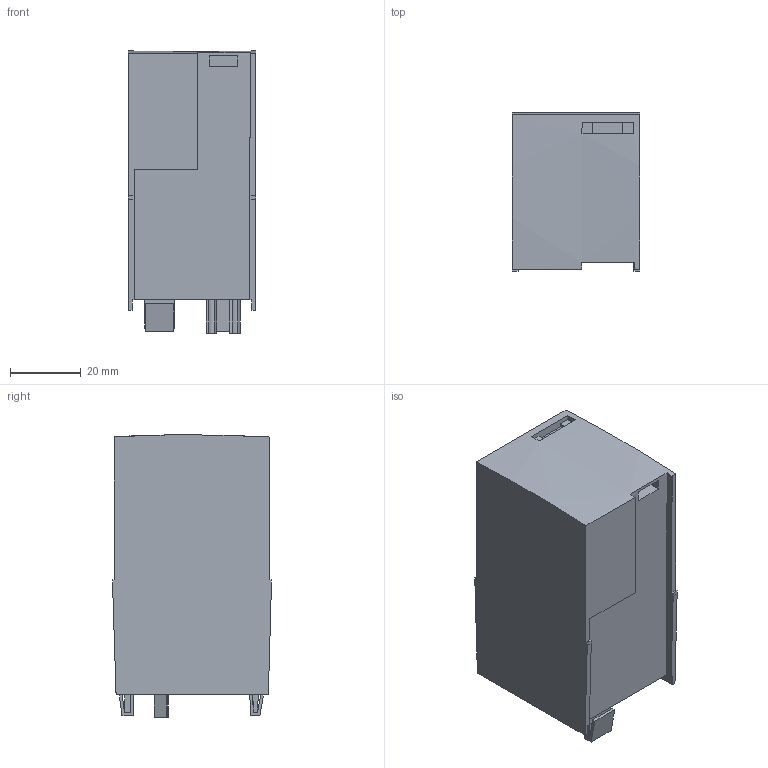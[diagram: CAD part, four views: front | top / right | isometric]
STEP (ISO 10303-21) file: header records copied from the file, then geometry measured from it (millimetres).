
FILE_DESCRIPTION((''),'2;1');
FILE_NAME('1695024699635_ASM','2023-09-18T13:42:02',('SESA730405'),('Schneider-Electric'),'CREO PARAMETRIC BY PTC INC, 2021284','CREO PARAMETRIC BY PTC INC, 2021284','');
FILE_SCHEMA(('AP242_MANAGED_MODEL_BASED_3D_ENGINEERING_MIM_LF { 1 0 10303 442 1 1 4 }'));
Length unit declared in the file: millimetre
Products named in the file (4): EMPTYNODE_1695024699696_ASM; PKR4984700-3D; PKR4984700-3D_ASM; 1695024699635_ASM
Assembly tree (3 placements, depth 3):
  1695024699635_ASM
    EMPTYNODE_1695024699696_ASM
    PKR4984700-3D_ASM
      PKR4984700-3D
Bounding box: 36 x 45 x 79.88 mm (x, y, z)
Volume: 108220.9 mm3; surface area: 16623.2 mm2
Topology: 1 solids, 1 shells, 136 faces, 366 edges, 234 vertices
Faces by surface type: plane 127, cylinder 7, extrusion 2
Entity records: 6140 total; most frequent: CARTESIAN_POINT 761, ORIENTED_EDGE 732, DIRECTION 678, PRESENTATION_STYLE_ASSIGNMENT 423, STYLED_ITEM 367, CURVE_STYLE 366, EDGE_CURVE 366, VECTOR 336
